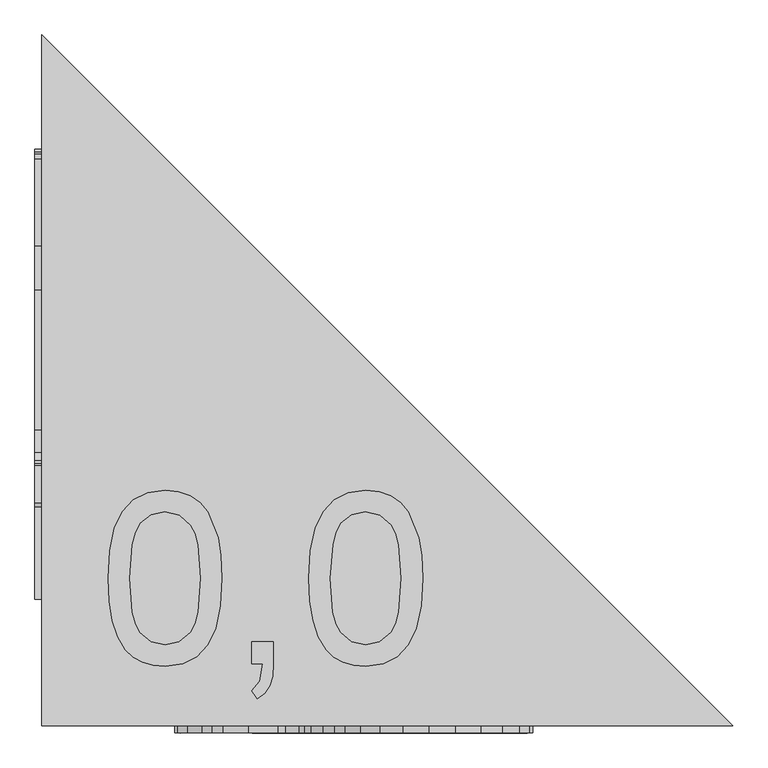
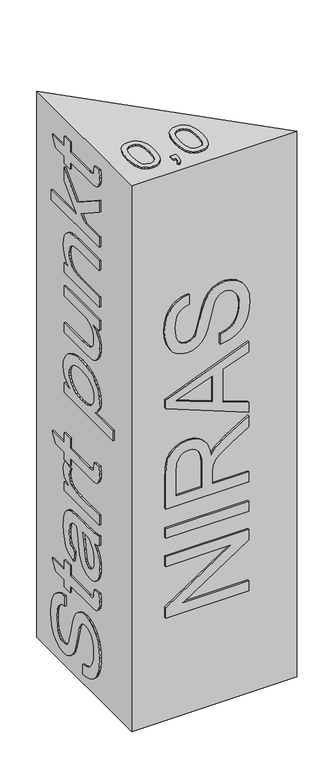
"""IFC4 building model written with IfcOpenShell, lengths in millimetres: proxy geometry, Start_objekt_N : Start_objekt_N."""

from ifc_helpers import new_model, si_unit, frame, origin, origin_with_axes, place, context, project, spatial, polyline, outline, extrude, source, transform, mapped, element, save


def generic_models_2862df2c(model_context):
    return source(origin(), model_context, "Body", "SweptSolid", [
        extrude(outline(polyline([(135.9750342, 253.4432411), (138.2819609, 293.6420132), (145.2027409, 325.7013963), (156.6683964, 350.1118995), (172.6099495, 367.3640322), (193.1423634, 377.6187429), (218.3806011, 381.0369797), (237.7250627, 379.0136288), (255.0461733, 372.9435758), (269.5315268, 363.0644114), (280.3687173, 349.613726), (295.0839971, 312.4576445), (299.3606253, 286.7442258), (300.786168, 253.4432411), (298.502234, 213.4743951), (291.6504318, 181.4916542), (280.2537542, 157.0581583), (264.3351937, 139.7370477), (243.7567946, 129.4133592), (218.3806011, 125.9721297), (201.0901473, 127.4666503), (185.7617309, 131.9502122), (172.3953517, 139.4228152), (160.9910099, 149.8844594), (150.0465205, 168.7958932), (142.2290281, 192.3595014), (137.5385327, 220.5752841), (135.9750342, 253.4432411)]), holes=[polyline([(167.3676311, 253.5045547), (171.0464511, 204.1240611), (175.644976, 187.2340622), (182.0829109, 175.5442286), (198.5149734, 161.9096021), (218.3806011, 157.3647267), (238.2462288, 161.9249306), (254.6782913, 175.6055423), (261.1162262, 187.3145364), (265.7147511, 204.2007032), (269.3935711, 253.5045547), (265.8373785, 301.7737382), (261.3921377, 318.6081716), (255.1688006, 330.5758327), (238.767395, 344.8772453), (218.0127191, 349.6443828), (198.3616892, 345.4443967), (182.5734202, 332.8444384), (175.9208875, 319.8152844), (171.1690784, 302.2489191), (167.3676311, 253.5045547)])]), frame((0.0, 0.0, 3500.0), z_axis=(0.0, 0.0, 1.0), x_axis=(1.0, 0.0, 0.0)), (0.0, 0.0, 1.0), 10.0),
        extrude(outline(polyline([(343.9509888, 129.8962044), (343.9509888, 161.2888013), (375.3435857, 161.2888013), (375.3435857, 129.8962044), (373.9333714, 111.9389645), (369.7027284, 97.7985003), (362.4064022, 86.9536456), (351.799138, 78.8832344), (343.9509888, 90.6554582), (355.477958, 104.2057784), (359.5859736, 129.8962044), (343.9509888, 129.8962044)])), frame((0.0, 0.0, 3500.0), z_axis=(0.0, 0.0, 1.0), x_axis=(1.0, 0.0, 0.0)), (0.0, 0.0, 1.0), 10.0),
        extrude(outline(polyline([(426.3565557, 253.4432411), (428.6634824, 293.6420132), (435.5842624, 325.7013963), (447.0499179, 350.1118995), (462.9914711, 367.3640322), (483.5238849, 377.6187429), (508.7621226, 381.0369797), (528.1065842, 379.0136288), (545.4276948, 372.9435758), (559.9130484, 363.0644114), (570.7502388, 349.613726), (585.4655186, 312.4576445), (589.7421468, 286.7442258), (591.1676895, 253.4432411), (588.8837555, 213.4743951), (582.0319533, 181.4916542), (570.6352757, 157.0581583), (554.7167152, 139.7370477), (534.1383161, 129.4133592), (508.7621226, 125.9721297), (491.4716689, 127.4666503), (476.1432524, 131.9502122), (462.7768732, 139.4228152), (451.3725314, 149.8844594), (440.428042, 168.7958932), (432.6105496, 192.3595014), (427.9200542, 220.5752841), (426.3565557, 253.4432411)]), holes=[polyline([(457.7491526, 253.5045547), (461.4279726, 204.1240611), (466.0264975, 187.2340622), (472.4644324, 175.5442286), (488.8964949, 161.9096021), (508.7621226, 157.3647267), (528.6277504, 161.9249306), (545.0598128, 175.6055423), (551.4977477, 187.3145364), (556.0962727, 204.2007032), (559.7750926, 253.5045547), (556.2189, 301.7737382), (551.7736592, 318.6081716), (545.5503221, 330.5758327), (529.1489165, 344.8772453), (508.3942406, 349.6443828), (488.7432107, 345.4443967), (472.9549418, 332.8444384), (466.302409, 319.8152844), (461.5505999, 302.2489191), (457.7491526, 253.5045547)])]), frame((0.0, 0.0, 3500.0), z_axis=(0.0, 0.0, 1.0), x_axis=(1.0, 0.0, 0.0)), (0.0, 0.0, 1.0), 10.0),
        extrude(outline(polyline([(537.5892605, 70.4892658), (511.5462809, 72.6888935), (486.8828588, 77.9388762), (463.5989942, 86.2392137), (441.6946871, 97.5899061), (421.8137309, 111.6805529), (404.5999192, 128.2007538), (390.053252, 147.1505086), (378.1737293, 168.5298175), (368.9460225, 192.4843003), (362.3548035, 219.1595771), (357.0818282, 280.6725123), (361.9715931, 330.7811058), (376.6408876, 375.6473808), (400.1240216, 412.9567464), (431.4553049, 440.3946119), (467.860294, 457.2711984), (506.5645456, 462.8967273), (544.4257342, 458.0069624), (577.5657706, 443.3376679), (605.6780864, 418.3676774), (628.4561133, 382.575825), (643.1407363, 340.6985912), (659.9713376, 271.4754625), (677.690987, 204.398312), (686.412856, 182.7239311), (695.0427544, 168.9590131), (714.4485297, 153.9678218), (738.5754572, 148.9707581), (753.2830728, 150.733526), (766.871714, 156.0218296), (779.3413808, 164.8356691), (790.6920732, 177.1750444), (800.1343777, 193.3695164), (806.878881, 213.748646), (812.2744836, 267.0608785), (806.8175673, 319.1468377), (799.996422, 339.7405652), (790.4468185, 356.701458), (778.2300706, 370.282435), (763.4074919, 380.736415), (745.9790824, 388.0633981), (725.944842, 392.2633842), (725.944842, 455.0485781), (767.5461643, 447.9668496), (804.5489617, 430.1552297), (820.8507326, 417.3253451), (835.0525104, 402.0122571), (857.156087, 363.9364706), (870.5837798, 317.5833392), (875.0596774, 264.6083319), (870.7830492, 215.7106834), (857.9531646, 171.5341871), (836.8612636, 134.7306592), (823.3262718, 120.0881893), (807.798586, 107.9519156), (773.5089183, 91.6271521), (736.7360472, 86.1855642), (703.8412655, 90.5848197), (674.3187354, 103.7825863), (648.7202799, 125.9321481), (627.597722, 157.1867893), (612.4992318, 195.5844725), (596.6343207, 255.595223), (572.6606774, 347.0138988), (559.6468518, 373.8079708), (544.1498227, 389.6882102), (525.9856492, 397.5057026), (504.9703903, 400.1115334), (483.4033083, 396.6319829), (462.8479018, 386.1933313), (444.9443114, 368.6422944), (431.3326776, 343.8255882), (422.7334359, 313.1994121), (419.867022, 278.2199657), (423.6531409, 238.4887102), (435.0114975, 202.926784), (452.5165491, 173.8334496), (474.742753, 153.5079693), (502.7477699, 140.4788153), (537.5892605, 133.2744596), (537.5892605, 70.4892658)])), frame((30.0, 0.0, 0.0), z_axis=(1.0, 0.0, 0.0), x_axis=(0.0, 1.0, 0.0)), (0.0, 0.0, 1.0), 10.0),
        extrude(outline(polyline([(417.2918481, 682.6449057), (419.867022, 655.2990108), (424.097665, 633.9005414), (435.5633205, 623.1706498), (467.9369361, 619.8597119), (671.0077974, 619.8597119), (671.0077974, 682.6449057), (733.7929913, 682.6449057), (733.7929913, 619.8597119), (860.3443976, 619.8597119), (823.4335708, 557.074518), (733.7929913, 557.074518), (733.7929913, 509.9856227), (671.0077974, 509.9856227), (671.0077974, 557.074518), (466.0975261, 557.074518), (421.1239522, 558.9752417), (394.8510464, 564.6774126), (379.5532867, 575.0394221), (367.5051514, 590.9196616), (359.687659, 613.3911201), (357.0818282, 643.5267869), (363.0905675, 690.493055), (417.2918481, 682.6449057)])), frame((30.0, 0.0, 0.0), z_axis=(1.0, 0.0, 0.0), x_axis=(0.0, 1.0, 0.0)), (0.0, 0.0, 1.0), 10.0),
        extrude(outline(polyline([(412.0188728, 980.8745765), (386.7576425, 986.5154337), (364.9299774, 996.570875), (364.9299774, 1059.3560688), (390.7583592, 1051.5692332), (417.7210437, 1046.848081), (526.7980553, 1043.6597703), (604.9116656, 1043.6597703), (659.8487102, 1040.594087), (683.3778295, 1033.0218493), (702.461708, 1021.341596), (717.8974234, 1003.7292454), (730.4820533, 978.3607162), (738.8513687, 944.714842), (741.6411405, 902.2704569), (738.4834867, 858.0173185), (729.0105253, 819.4356943), (713.7127657, 787.8898132), (693.0807171, 764.7439043), (666.1027041, 748.4804545), (631.7670513, 737.5819503), (623.918902, 800.3671442), (650.0231953, 812.8444752), (666.7771545, 830.6560951), (675.8362486, 856.7757168), (678.8559466, 894.177053), (674.3187354, 934.5827588), (668.6472213, 950.5089835), (660.7071016, 963.5841227), (642.3743155, 976.551963), (614.3539702, 980.8745765), (600.3744543, 980.5066945), (588.7248578, 935.8090321), (578.792044, 871.6136239), (569.3497394, 817.289716), (560.7045125, 794.0978219), (548.7483477, 773.3278175), (532.9294219, 755.6541534), (512.6959122, 741.7512796), (489.059494, 732.7381707), (463.0318428, 729.7338011), (440.8899452, 731.7226632), (420.8173839, 737.6892493), (402.8141587, 747.6335594), (386.8802698, 761.5555937), (373.8434516, 779.1871047), (364.5314386, 800.2598453), (358.9442308, 824.7738153), (357.0818282, 852.7290148), (360.1781683, 887.5091918), (369.4671887, 919.9901063), (386.29779, 950.8768655), (412.0188728, 980.8745765)]), holes=[polyline([(537.5892605, 980.8745765), (519.8082974, 980.5066945), (491.6040111, 978.023491), (471.247874, 970.5738806), (451.4895452, 953.7739362), (434.8888702, 929.6163518), (423.6224841, 899.8179102), (419.867022, 866.095394), (423.2699305, 834.2889298), (433.4786559, 811.219663), (448.7764155, 797.194162), (467.4464268, 792.518995), (480.1076988, 794.6649733), (491.6040111, 801.1029082), (501.1995998, 811.510903), (508.1587009, 825.5670609), (518.3367694, 879.5844005), (527.1352805, 938.6907744), (537.5892605, 980.8745765)])]), frame((30.0, 0.0, 0.0), z_axis=(1.0, 0.0, 0.0), x_axis=(0.0, 1.0, 0.0)), (0.0, 0.0, 1.0), 10.0),
        extrude(outline(polyline([(364.9299774, 1129.9894119), (364.9299774, 1192.7746057), (558.8037889, 1192.7746057), (597.0635164, 1195.3191228), (632.1349333, 1202.9526742), (651.6939927, 1212.0424252), (666.4705861, 1225.5774169), (675.7596065, 1242.3313761), (678.8559466, 1261.0780295), (675.6369792, 1283.1509492), (665.9800768, 1305.2238689), (722.2660221, 1326.1931426), (736.7973609, 1294.4326637), (741.6411405, 1263.1626941), (738.606114, 1242.6839297), (729.5010347, 1223.921948), (710.8616802, 1205.2212799), (679.2238286, 1184.9264565), (733.7929913, 1184.9264565), (733.7929913, 1129.9894119), (364.9299774, 1129.9894119)])), frame((30.0, 0.0, 0.0), z_axis=(1.0, 0.0, 0.0), x_axis=(0.0, 1.0, 0.0)), (0.0, 0.0, 1.0), 10.0),
        extrude(outline(polyline([(417.2918481, 1498.8524257), (419.867022, 1471.5065307), (424.097665, 1450.1080613), (435.5633205, 1439.3781698), (467.9369361, 1436.0672319), (671.0077974, 1436.0672319), (671.0077974, 1498.8524257), (733.7929913, 1498.8524257), (733.7929913, 1436.0672319), (860.3443976, 1436.0672319), (823.4335708, 1373.282038), (733.7929913, 1373.282038), (733.7929913, 1326.1931426), (671.0077974, 1326.1931426), (671.0077974, 1373.282038), (466.0975261, 1373.282038), (421.1239522, 1375.1827617), (394.8510464, 1380.8849326), (379.5532867, 1391.2469421), (367.5051514, 1407.1271816), (359.687659, 1429.5986401), (357.0818282, 1459.7343069), (363.0905675, 1506.7005749), (417.2918481, 1498.8524257)])), frame((30.0, 0.0, 0.0), z_axis=(1.0, 0.0, 0.0), x_axis=(0.0, 1.0, 0.0)), (0.0, 0.0, 1.0), 10.0),
        extrude(outline(polyline([(223.6632913, 1757.8413503), (223.6632913, 1820.6265441), (413.9809101, 1820.6265441), (391.4634663, 1838.361522), (373.2073223, 1860.4191133), (361.1132017, 1886.1861814), (357.0818282, 1915.0495896), (363.1058959, 1955.7465353), (381.1780989, 1994.4507869), (394.544478, 2012.1857647), (410.5473448, 2027.6827938), (429.1866993, 2040.941874), (450.4625413, 2051.9630054), (498.4864701, 2066.816241), (552.181913, 2071.7673195), (602.6737168, 2067.3833924), (648.9348777, 2054.2316111), (688.1143102, 2032.4652597), (703.9792212, 2018.4091018), (717.3609288, 2002.2376224), (727.9835214, 1984.3416962), (735.5710876, 1965.1121978), (740.1236273, 1944.5491271), (741.6411405, 1922.6524841), (737.3031986, 1890.7693779), (724.2893731, 1864.0366196), (702.5996638, 1841.1053085), (672.2340707, 1820.6265441), (733.7929913, 1820.6265441), (733.7929913, 1757.8413503), (223.6632913, 1757.8413503)]), holes=[polyline([(546.4184284, 1820.6265441), (576.8108461, 1822.4391294), (603.3634956, 1827.8768851), (626.0763767, 1836.9398114), (644.9494894, 1849.6279081), (659.7835645, 1864.6689168), (670.3793323, 1880.7905788), (676.7367931, 1897.9928942), (678.8559466, 1916.2758629), (676.8632525, 1934.6163132), (670.8851701, 1951.6231913), (660.9216994, 1967.2964971), (646.9728404, 1981.6362307), (629.0232647, 1993.6000598), (607.0576439, 2002.1456519), (581.075978, 2007.2730072), (551.078267, 2008.9821257), (519.6780059, 2007.2308541), (492.6770003, 2001.9770394), (470.0752502, 1993.2206814), (451.8727556, 1980.9617804), (437.8702472, 1966.2503327), (427.8684554, 1950.1363349), (421.8673804, 1932.6197869), (419.867022, 1913.7006889), (421.7984025, 1895.0498382), (427.5925439, 1877.8475228), (437.2494463, 1862.0937428), (450.7691096, 1847.7884981), (468.3354749, 1835.9051433), (490.1324831, 1827.4170326), (516.1601343, 1822.3241663), (546.4184284, 1820.6265441)])]), frame((30.0, 0.0, 0.0), z_axis=(1.0, 0.0, 0.0), x_axis=(0.0, 1.0, 0.0)), (0.0, 0.0, 1.0), 10.0),
        extrude(outline(polyline([(364.9299774, 2377.8451395), (364.9299774, 2440.6303334), (733.7929913, 2440.6303334), (733.7929913, 2377.8451395), (541.8812171, 2377.8451395), (501.4601829, 2375.3006224), (471.9223244, 2367.667071), (450.3552424, 2353.9174814), (433.8465379, 2333.0248498), (423.361901, 2307.6869773), (419.867022, 2280.6016655), (423.2852589, 2254.9878815), (433.5399695, 2233.8193384), (449.7727626, 2218.1383684), (471.1252467, 2208.9873037), (535.1367139, 2205.1858564), (733.7929913, 2205.1858564), (733.7929913, 2142.4006626), (505.5835269, 2142.4006626), (447.212917, 2146.0794825), (421.9823435, 2153.4524509), (400.982413, 2164.7801506), (383.6919592, 2181.6107519), (369.589816, 2205.4924248), (360.2088252, 2233.9572941), (357.0818282, 2264.537485), (361.5347332, 2298.474599), (374.8934481, 2328.6715795), (397.1579731, 2355.1284263), (428.3283079, 2377.8451395), (364.9299774, 2377.8451395)])), frame((30.0, 0.0, 0.0), z_axis=(1.0, 0.0, 0.0), x_axis=(0.0, 1.0, 0.0)), (0.0, 0.0, 1.0), 10.0),
        extrude(outline(polyline([(364.9299774, 2526.9599749), (364.9299774, 2589.7451687), (560.6431989, 2589.7451687), (592.3346999, 2591.5347614), (618.4926426, 2596.9035392), (639.117027, 2605.8515023), (654.207853, 2618.3786507), (664.991394, 2633.3736741), (672.6939232, 2649.7252624), (677.3154408, 2667.4334155), (678.8559466, 2686.4981335), (676.1121601, 2709.6593707), (667.8808005, 2729.6016406), (655.0509159, 2745.1599833), (638.5115545, 2755.1694392), (615.4269593, 2760.5956987), (582.9613732, 2762.4044518), (364.9299774, 2762.4044518), (364.9299774, 2825.1896456), (591.4226591, 2825.1896456), (652.1231883, 2821.8787077), (677.0318651, 2814.4750825), (698.2923787, 2803.0554123), (715.858744, 2786.224811), (729.6849756, 2762.5883928), (738.6520993, 2734.2461508), (741.6411405, 2703.2980779), (737.9316637, 2668.3339599), (726.8032334, 2637.7537691), (708.2558494, 2611.5575054), (682.2895119, 2589.7451687), (733.7929913, 2589.7451687), (733.7929913, 2526.9599749), (364.9299774, 2526.9599749)])), frame((30.0, 0.0, 0.0), z_axis=(1.0, 0.0, 0.0), x_axis=(0.0, 1.0, 0.0)), (0.0, 0.0, 1.0), 10.0),
        extrude(outline(polyline([(364.9299774, 2911.5192872), (364.9299774, 2974.304481), (513.0637942, 2974.304481), (551.9366583, 3014.4036185), (364.9299774, 3136.4178136), (364.9299774, 3209.7489579), (595.5919884, 3059.4078492), (733.7929913, 3201.9008087), (733.7929913, 3115.0806578), (597.3087711, 2974.304481), (867.2115282, 2974.304481), (867.2115282, 2911.5192872), (364.9299774, 2911.5192872)])), frame((30.0, 0.0, 0.0), z_axis=(1.0, 0.0, 0.0), x_axis=(0.0, 1.0, 0.0)), (0.0, 0.0, 1.0), 10.0),
        extrude(outline(polyline([(417.2918481, 3398.1045395), (419.867022, 3370.7586445), (424.097665, 3349.3601751), (435.5633205, 3338.6302836), (467.9369361, 3335.3193456), (671.0077974, 3335.3193456), (671.0077974, 3398.1045395), (733.7929913, 3398.1045395), (733.7929913, 3335.3193456), (860.3443976, 3335.3193456), (823.4335708, 3272.5341518), (733.7929913, 3272.5341518), (733.7929913, 3225.4452564), (671.0077974, 3225.4452564), (671.0077974, 3272.5341518), (466.0975261, 3272.5341518), (421.1239522, 3274.4348754), (394.8510464, 3280.1370463), (379.5532867, 3290.4990559), (367.5051514, 3306.3792953), (359.687659, 3328.8507539), (357.0818282, 3358.9864206), (363.0905675, 3405.9526887), (417.2918481, 3398.1045395)])), frame((30.0, 0.0, 0.0), z_axis=(1.0, 0.0, 0.0), x_axis=(0.0, 1.0, 0.0)), (0.0, 0.0, 1.0), 10.0),
        extrude(outline(polyline([(664.2111352, 742.4335149), (726.9963291, 742.4335149), (726.9963291, 344.3851961), (989.418819, 742.4335149), (1056.6185968, 742.4335149), (1056.6185968, 240.1519641), (993.8334029, 240.1519641), (993.8334029, 638.0776556), (731.410913, 240.1519641), (664.2111352, 240.1519641), (664.2111352, 742.4335149)])), frame((0.0, 30.0, 0.0), z_axis=(0.0, 1.0, 0.0), x_axis=(0.0, 0.0, 1.0)), (0.0, 0.0, 1.0), 10.0),
        extrude(outline(polyline([(742.4335149, 30.0), (240.1519641, 30.0), (240.1519641, 40.0), (742.4335149, 40.0), (742.4335149, 30.0)])), frame((0.0, 0.0, 1174.3408352), z_axis=(0.0, 0.0, 1.0), x_axis=(1.0, 0.0, 0.0)), (0.0, 0.0, 1.0), 62.7851938),
        extrude(outline(polyline([(1362.6964168, 742.4335149), (1425.4816106, 742.4335149), (1425.4816106, 522.6853364), (1501.2653016, 522.6853364), (1537.6856191, 524.8926284), (1567.5453744, 536.8487933), (1583.1650308, 549.3107958), (1600.7160676, 569.4063498), (1647.9275904, 638.3229103), (1713.2879582, 742.4335149), (1786.2512205, 742.4335149), (1702.496753, 606.3171767), (1651.6064103, 541.6925729), (1636.615219, 528.3568505), (1615.9218568, 514.8371872), (1649.16536, 508.1923187), (1677.7720172, 498.1905269), (1701.7418285, 484.831812), (1721.0747937, 468.1161738), (1735.9625182, 448.6644133), (1746.5966071, 427.0973314), (1752.9770605, 403.4149279), (1755.1038783, 377.617203), (1749.9688588, 337.8399623), (1734.5638002, 301.649571), (1710.5595, 272.4642661), (1679.6267556, 253.7022843), (1637.3049977, 243.5395442), (1579.1336573, 240.1519641), (1362.6964168, 240.1519641), (1362.6964168, 742.4335149)]), holes=[polyline([(1425.4816106, 459.9001426), (1425.4816106, 302.937158), (1581.8314586, 302.937158), (1631.5108563, 308.3634174), (1650.5679101, 315.1462417), (1665.7698671, 324.6421957), (1677.3849747, 336.2381428), (1685.6814801, 349.3209462), (1690.6593834, 363.8906061), (1692.3186844, 379.9471223), (1688.8391339, 402.1273409), (1678.4004823, 422.5601201), (1661.2633127, 439.452035), (1637.6882082, 451.009661), (1606.3722533, 457.6775222), (1566.0125328, 459.9001426), (1425.4816106, 459.9001426)])]), frame((0.0, 30.0, 0.0), z_axis=(0.0, 1.0, 0.0), x_axis=(0.0, 0.0, 1.0)), (0.0, 0.0, 1.0), 10.0),
        extrude(outline(polyline([(1806.4847303, 742.4335149), (1872.8261167, 742.4335149), (1930.215708, 585.4705303), (2137.0880166, 585.4705303), (2194.6002352, 742.4335149), (2260.9416216, 742.4335149), (2060.4459343, 240.1519641), (2006.9804176, 240.1519641), (1806.4847303, 742.4335149)]), holes=[polyline([(1953.2696463, 522.6853364), (2002.4432064, 388.4084082), (2033.713176, 302.937158), (2068.9072202, 399.1996134), (2114.1567056, 522.6853364), (1953.2696463, 522.6853364)])]), frame((0.0, 30.0, 0.0), z_axis=(0.0, 1.0, 0.0), x_axis=(0.0, 0.0, 1.0)), (0.0, 0.0, 1.0), 10.0),
        extrude(outline(polyline([(2304.4743244, 569.7742318), (2306.6739522, 595.8172114), (2311.9239348, 620.4806335), (2320.2242723, 643.7644981), (2331.5749647, 665.6688052), (2345.6656116, 685.5497614), (2362.1858124, 702.7635731), (2381.1355673, 717.3102403), (2402.5148761, 729.1897631), (2426.469359, 738.4174698), (2453.1446357, 745.0086889), (2514.657571, 750.2816641), (2564.7661644, 745.3918993), (2609.6324394, 730.7226047), (2646.9418051, 707.2394707), (2674.3796706, 675.9081874), (2691.2562571, 639.5031983), (2696.8817859, 600.7989467), (2691.9920211, 562.9377581), (2677.3227265, 529.7977217), (2652.3527361, 501.6854059), (2616.5608837, 478.907379), (2574.6836499, 464.222756), (2505.4605211, 447.3921548), (2438.3833707, 429.6725053), (2416.7089898, 420.9506364), (2402.9440718, 412.3207379), (2387.9528805, 392.9149626), (2382.9558167, 368.7880351), (2384.7185846, 354.0804195), (2390.0068883, 340.4917783), (2398.8207278, 328.0221115), (2411.160103, 316.6714191), (2427.354575, 307.2291146), (2447.7337047, 300.4846114), (2501.0459372, 295.0890088), (2553.1318963, 300.545925), (2573.7256238, 307.3670703), (2590.6865167, 316.9166738), (2604.2674936, 329.1334217), (2614.7214737, 343.9560004), (2622.0484567, 361.38441), (2626.2484429, 381.4186503), (2689.0336367, 381.4186503), (2681.9519083, 339.817328), (2664.1402884, 302.8145307), (2651.3104038, 286.5127597), (2635.9973157, 272.3109819), (2597.9215292, 250.2074053), (2551.5683978, 236.7797125), (2498.5933905, 232.3038149), (2449.695742, 236.5804431), (2405.5192458, 249.4103277), (2368.7157178, 270.5022287), (2354.073248, 284.0372205), (2341.9369743, 299.5649064), (2325.6122107, 333.854574), (2320.1706229, 370.6274451), (2324.5698784, 403.5222268), (2337.767645, 433.0447569), (2359.9172068, 458.6432124), (2391.1718479, 479.7657703), (2429.5695312, 494.8642606), (2489.5802816, 510.7291716), (2580.9989575, 534.7028149), (2607.7930294, 547.7166405), (2623.6732689, 563.2136696), (2631.4907613, 581.3778431), (2634.0965921, 602.3931021), (2630.6170416, 623.960184), (2620.1783899, 644.5155905), (2602.6273531, 662.4191809), (2577.8106468, 676.0308148), (2547.1844707, 684.6300564), (2512.2050244, 687.4964703), (2472.4737689, 683.7103514), (2436.9118427, 672.3519948), (2407.8185082, 654.8469432), (2387.493028, 632.6207393), (2374.463874, 604.6157224), (2367.2595183, 569.7742318), (2304.4743244, 569.7742318)])), frame((0.0, 30.0, 0.0), z_axis=(0.0, 1.0, 0.0), x_axis=(0.0, 0.0, 1.0)), (0.0, 0.0, 1.0), 10.0),
        extrude(outline(polyline([(1040.0, 40.0), (40.0, 40.0), (40.0, 1040.0), (1040.0, 40.0)])), origin_with_axes(), (0.0, 0.0, 1.0), 3500.0),
    ])


if __name__ == "__main__":
    model = new_model("IFC4")
    model_context = context("Model", 3, world=origin())
    ifc_project = project(units=[si_unit("LENGTHUNIT", "METRE", prefix="MILLI")], contexts=[model_context])
    site = spatial("IfcSite", under=ifc_project)
    building = spatial("IfcBuilding", under=site)
    placement = place(None, origin())
    generic_models_shape = generic_models_2862df2c(model_context)
    element("IfcBuildingElementProxy", 1, Name="Start_objekt_N : Start_objekt_N", ObjectType="Start_objekt_N : Start_objekt_N", at=placement, inside=building, context=model_context, shape_type="MappedRepresentation", body=[
        mapped(generic_models_shape, transform((0.0, 0.0, 0.0), x_axis=(1.0, 0.0, 0.0), y_axis=(0.0, 1.0, 0.0), z_axis=(0.0, 0.0, 1.0))),
    ])
    save(model, "model.ifc")
